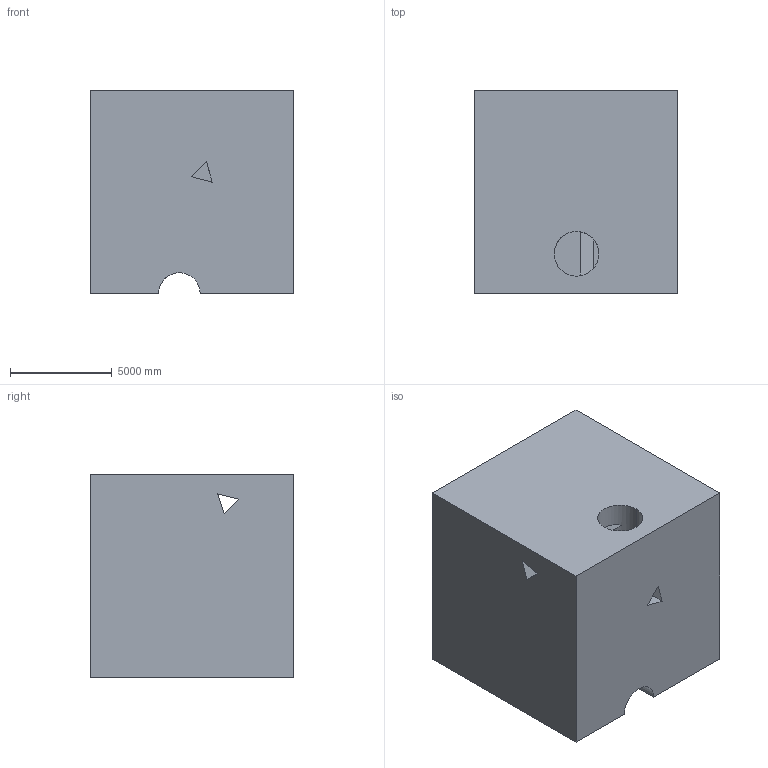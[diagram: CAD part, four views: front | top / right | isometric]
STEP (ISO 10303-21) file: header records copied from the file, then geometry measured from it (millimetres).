
FILE_DESCRIPTION (( 'STEP AP203' ), '1' );
FILE_NAME ('790.STEP', '2022-07-29T13:13:57', ( 'user' ), ( '' ), 'SwSTEP 2.0', 'SolidWorks 2021', '' );
FILE_SCHEMA (( 'CONFIG_CONTROL_DESIGN' ));
Length unit declared in the file: centimetre
Products named in the file (1): 790
Bounding box: 10000 x 10000 x 10000 mm (x, y, z)
Volume: 931689493868.7 mm3; surface area: 735005226.4 mm2
Topology: 1 solids, 1 shells, 34 faces, 93 edges, 62 vertices
Faces by surface type: plane 28, cylinder 6
Entity records: 1162 total; most frequent: CARTESIAN_POINT 208, ORIENTED_EDGE 186, DIRECTION 173, EDGE_CURVE 93, LINE 71, VECTOR 71, VERTEX_POINT 62, AXIS2_PLACEMENT_3D 51
